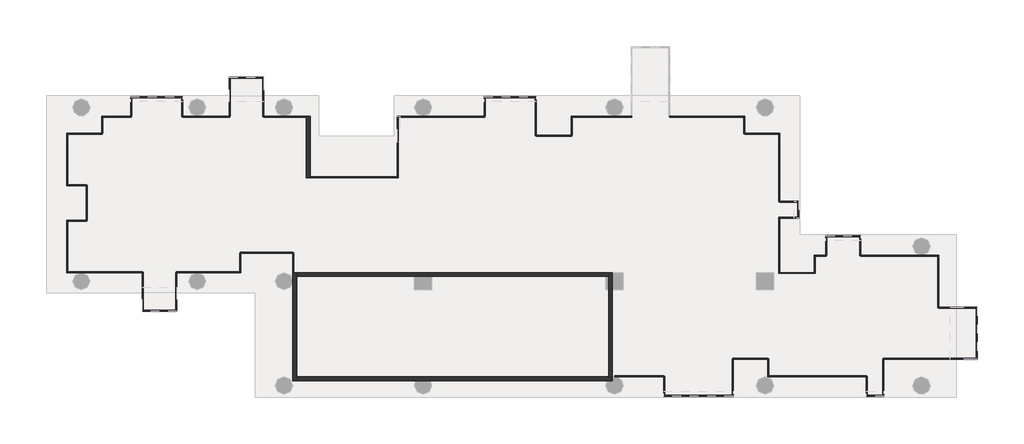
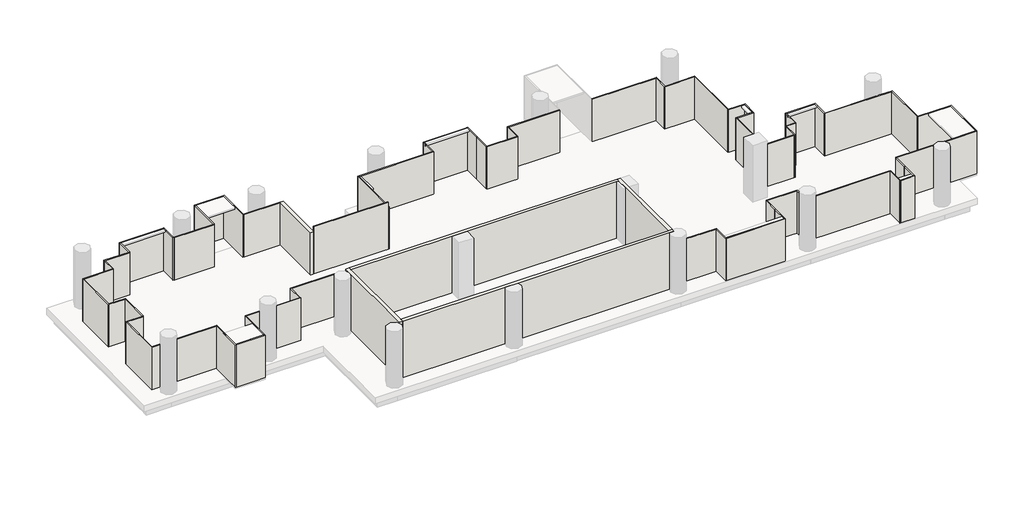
# One storey, part 1 of 2: 71 walls.
"""IFC4 building model written with IfcOpenShell, lengths in millimetres."""

from ifc_helpers import new_model, si_unit, frame, origin, place, context, project, spatial, polyline, outline, extrude, faceted_brep, element, save

model = new_model("IFC4")

# Units and contexts
model_context = context("Model", 3, world=origin())
ifc_project = project(units=[si_unit("LENGTHUNIT", "METRE", prefix="MILLI")], contexts=[model_context])

# Site, building, storey
site = spatial("IfcSite", under=ifc_project)
building = spatial("IfcBuilding", under=site)
storey = spatial("IfcBuildingStorey", under=building, Name="TW-L 13", Elevation=45999.9999686)

# Walls
placement = place(None, origin())
element("IfcWall", 1, ObjectType="AJN-ARC-CONCRETE WALL-20cm", at=placement, inside=storey, context=model_context, shape_type="Brep", body=[
    faceted_brep([(113050.0, 30750.0, 49599.9999686), (113050.0, 30750.0, 45999.9999686), (113050.0, 25150.0, 45999.9999686), (113050.0, 25150.0, 49599.9999686), (113250.0, 30750.0, 45999.9999686), (113250.0, 30750.0, 49599.9999686), (113250.0, 30550.0, 49599.9999686), (113250.0, 25350.0, 49599.9999686), (113250.0, 25150.0, 49599.9999686), (113250.0, 25150.0, 45999.9999686), (113250.0, 25350.0, 45999.9999686), (113250.0, 30550.0, 45999.9999686), (113097.1743518, 30750.0, 45999.9999686)], [[[0, 1, 2, 3]], [[4, 5, 6, 7, 8, 9, 10, 11]], [[2, 1, 12, 4, 11, 10, 9]], [[0, 3, 8, 7, 6, 5]], [[3, 2, 9, 8]], [[0, 5, 4, 12, 1]]]),
])
element("IfcWall", 2, ObjectType="AJN-ARC-CONCRETE WALL-20cm", at=placement, inside=storey, context=model_context, shape_type="Brep", body=[
    faceted_brep([(113250.0, 25150.0, 45999.9999686), (119425.8342613, 25150.0, 45999.9999686), (120174.1657387, 25150.0, 45999.9999686), (129325.8342613, 25150.0, 45999.9999686), (129600.0, 25150.0, 45999.9999686), (129600.0, 25150.0, 49599.9999686), (129325.8342613, 25150.0, 49599.9999686), (120174.1657387, 25150.0, 49599.9999686), (119425.8342613, 25150.0, 49599.9999686), (113250.0, 25150.0, 49599.9999686), (113250.0, 25350.0, 45999.9999686), (113250.0, 25350.0, 49599.9999686), (129400.0, 25350.0, 49599.9999686), (129600.0, 25350.0, 49599.9999686), (129600.0, 25350.0, 45999.9999686), (129400.0, 25350.0, 45999.9999686), (129600.0, 25338.7482194, 45999.9999686), (129600.0, 25338.7482194, 49599.9999686)], [[[0, 1, 2, 3, 4, 5, 6, 7, 8, 9]], [[10, 11, 12, 13, 14, 15]], [[4, 3, 2, 1, 0, 10, 15, 14, 16]], [[9, 8, 7, 6, 5, 17, 13, 12, 11]], [[5, 4, 16, 14, 13, 17]], [[0, 9, 11, 10]]]),
])
element("IfcWall", 3, ObjectType="AJN-ARC-CONCRETE WALL-20cm", at=placement, inside=storey, context=model_context, shape_type="Brep", body=[
    faceted_brep([(129600.0, 25350.0, 45999.9999686), (129600.0, 29850.0, 45999.9999686), (129600.0, 30750.0, 45999.9999686), (129600.0, 30750.0, 49599.9999686), (129600.0, 29850.0, 49599.9999686), (129600.0, 25350.0, 49599.9999686), (129400.0, 25350.0, 45999.9999686), (129400.0, 25350.0, 49599.9999686), (129400.0, 29850.0, 49599.9999686), (129400.0, 30550.0, 49599.9999686), (129400.0, 30750.0, 49599.9999686), (129400.0, 30750.0, 45999.9999686), (129400.0, 30550.0, 45999.9999686), (129400.0, 29850.0, 45999.9999686)], [[[0, 1, 2, 3, 4, 5]], [[6, 7, 8, 9, 10, 11, 12, 13]], [[2, 1, 0, 6, 13, 12, 11]], [[5, 4, 3, 10, 9, 8, 7]], [[3, 2, 11, 10]], [[0, 5, 7, 6]]]),
])
element("IfcWall", 4, ObjectType="AJN-ARC-CONCRETE WALL-20cm", at=placement, inside=storey, context=model_context, shape_type="Brep", body=[
    faceted_brep([(129400.0, 30750.0, 45999.9999686), (113250.0, 30750.0, 45999.9999686), (113250.0, 30750.0, 49599.9999686), (129400.0, 30750.0, 49599.9999686), (129400.0, 30550.0, 45999.9999686), (129400.0, 30550.0, 49599.9999686), (129250.0, 30550.0, 49599.9999686), (120250.0, 30550.0, 49599.9999686), (119350.0, 30550.0, 49599.9999686), (113250.0, 30550.0, 49599.9999686), (113250.0, 30550.0, 45999.9999686), (119350.0, 30550.0, 45999.9999686), (120250.0, 30550.0, 45999.9999686), (129250.0, 30550.0, 45999.9999686)], [[[0, 1, 2, 3]], [[4, 5, 6, 7, 8, 9, 10, 11, 12, 13]], [[1, 0, 4, 13, 12, 11, 10]], [[3, 2, 9, 8, 7, 6, 5]], [[0, 3, 5, 4]], [[1, 10, 9, 2]]]),
])
element("IfcWall", 5, ObjectType="AJN-ARC-CONCRETE WALL-20cm", at=placement, inside=storey, context=model_context, shape_type="Brep", body=[
    faceted_brep([(113950.0, 35650.0, 45999.9999686), (113950.0, 38850.001152, 45999.9999686), (113950.0, 38850.001152, 48699.9999686), (113950.0, 35650.0, 48699.9999686), (113750.0, 35650.0, 45999.9999686), (113750.0, 35650.0, 48699.9999686), (113750.0, 38800.001056, 48699.9999686), (113750.0, 38850.001056, 48699.9999686), (113750.0, 38850.001056, 45999.9999686), (113750.0, 38800.001056, 45999.9999686)], [[[0, 1, 2, 3]], [[4, 5, 6, 7, 8, 9]], [[1, 0, 4, 9, 8]], [[3, 2, 7, 6, 5]], [[0, 3, 5, 4]], [[2, 1, 8, 7]]]),
])
element("IfcWall", 6, ObjectType="AJN-ARC-GLASS-50mm", at=placement, inside=storey, context=model_context, shape_type="SweptSolid", body=[
    extrude(outline(polyline([(111550.0, 38850.0), (113750.0, 38850.001056), (113750.0, 38800.001056), (111550.000024, 38800.0), (111550.0, 38850.0)])), frame((0.0, 0.0, 45999.9999686), z_axis=(0.0, 0.0, 1.0), x_axis=(1.0, 0.0, 0.0)), (0.0, 0.0, 1.0), 2700.0),
])
element("IfcWall", 7, ObjectType="AJN-ARC-GLASS-50mm", at=placement, inside=storey, context=model_context, shape_type="Brep", body=[
    faceted_brep([(111550.0, 38824.999988, 45999.9999686), (111550.0, 40850.0, 45999.9999686), (111550.0, 40850.0, 48699.9999686), (111550.0, 38824.999988, 48699.9999686), (111500.0, 38824.999988, 45999.9999686), (111500.0, 38824.999988, 48699.9999686), (111500.0, 40800.0, 48699.9999686), (111500.0, 40850.0, 48699.9999686), (111500.0, 40850.0, 45999.9999686), (111500.0, 40800.0, 45999.9999686)], [[[0, 1, 2, 3]], [[4, 5, 6, 7, 8, 9]], [[1, 0, 4, 9, 8]], [[3, 2, 7, 6, 5]], [[0, 3, 5, 4]], [[2, 1, 8, 7]]]),
])
element("IfcWall", 8, ObjectType="AJN-ARC-GLASS-50mm", at=placement, inside=storey, context=model_context, shape_type="Brep", body=[
    faceted_brep([(111500.0, 40850.0, 45999.9999686), (109750.0, 40850.0, 45999.9999686), (109750.0, 40850.0, 48699.9999686), (111500.0, 40850.0, 48699.9999686), (111500.0, 40800.0, 45999.9999686), (111500.0, 40800.0, 48699.9999686), (109800.0, 40800.0, 48699.9999686), (109750.0, 40800.0, 48699.9999686), (109750.0, 40800.0, 45999.9999686), (109800.0, 40800.0, 45999.9999686)], [[[0, 1, 2, 3]], [[4, 5, 6, 7, 8, 9]], [[1, 0, 4, 9, 8]], [[3, 2, 7, 6, 5]], [[2, 1, 8, 7]], [[0, 3, 5, 4]]]),
])
element("IfcWall", 9, ObjectType="AJN-ARC-GLASS-50mm", at=placement, inside=storey, context=model_context, shape_type="SweptSolid", body=[
    extrude(outline(polyline([(109750.0, 38850.0), (109750.0, 40800.0), (109800.0, 40800.0), (109800.0, 38850.0), (109750.0, 38850.0)])), frame((0.0, 0.0, 45999.9999686), z_axis=(0.0, 0.0, 1.0), x_axis=(1.0, 0.0, 0.0)), (0.0, 0.0, 1.0), 2700.0),
])
element("IfcWall", 10, ObjectType="AJN-ARC-GLASS-50mm", at=placement, inside=storey, context=model_context, shape_type="SweptSolid", body=[
    extrude(outline(polyline([(107350.0, 38850.0), (109775.0, 38850.0), (109775.0, 38800.0), (107350.0, 38800.0), (107350.0, 38850.0)])), frame((0.0, 0.0, 45999.9999686), z_axis=(0.0, 0.0, 1.0), x_axis=(1.0, 0.0, 0.0)), (0.0, 0.0, 1.0), 2700.0),
])
element("IfcWall", 11, ObjectType="AJN-ARC-GLASS-50mm", at=placement, inside=storey, context=model_context, shape_type="Brep", body=[
    faceted_brep([(107350.0, 38825.0, 45999.9999686), (107350.0, 39850.0, 45999.9999686), (107350.0, 39850.0, 48699.9999686), (107350.0, 38825.0, 48699.9999686), (107300.0, 38825.0, 45999.9999686), (107300.0, 38825.0, 48699.9999686), (107300.0, 39800.0, 48699.9999686), (107300.0, 39850.0, 48699.9999686), (107300.0, 39850.0, 45999.9999686), (107300.0, 39800.0, 45999.9999686)], [[[0, 1, 2, 3]], [[4, 5, 6, 7, 8, 9]], [[1, 0, 4, 9, 8]], [[3, 2, 7, 6, 5]], [[0, 3, 5, 4]], [[2, 1, 8, 7]]]),
])
element("IfcWall", 12, ObjectType="AJN-ARC-GLASS-50mm", at=placement, inside=storey, context=model_context, shape_type="Brep", body=[
    faceted_brep([(107300.0, 39850.0, 45999.9999686), (104650.0, 39850.0, 45999.9999686), (104650.0, 39850.0, 48699.9999686), (107300.0, 39850.0, 48699.9999686), (107300.0, 39800.0, 45999.9999686), (107300.0, 39800.0, 48699.9999686), (104700.0, 39800.0, 48699.9999686), (104650.0, 39800.0, 48699.9999686), (104650.0, 39800.0, 45999.9999686), (104700.0, 39800.0, 45999.9999686)], [[[0, 1, 2, 3]], [[4, 5, 6, 7, 8, 9]], [[1, 0, 4, 9, 8]], [[3, 2, 7, 6, 5]], [[2, 1, 8, 7]], [[0, 3, 5, 4]]]),
])
element("IfcWall", 13, ObjectType="AJN-ARC-GLASS-50mm", at=placement, inside=storey, context=model_context, shape_type="SweptSolid", body=[
    extrude(outline(polyline([(104650.0, 38850.0), (104650.0, 39800.0), (104700.0, 39800.0), (104700.0, 38850.0), (104650.0, 38850.0)])), frame((0.0, 0.0, 45999.9999686), z_axis=(0.0, 0.0, 1.0), x_axis=(1.0, 0.0, 0.0)), (0.0, 0.0, 1.0), 2700.0),
])
element("IfcWall", 14, ObjectType="AJN-ARC-GLASS-50mm", at=placement, inside=storey, context=model_context, shape_type="Brep", body=[
    faceted_brep([(104675.0000087, 38849.9999913, 45999.9999686), (103152.4399309, 38850.0005223, 45999.9999686), (103152.4399309, 38850.0005223, 48699.9999686), (104675.0000087, 38849.9999913, 48699.9999686), (104674.9999913, 38799.9999913, 45999.9999686), (104674.9999913, 38799.9999913, 48699.9999686), (103202.4399309, 38800.0005049, 48699.9999686), (103152.4399309, 38800.0005223, 48699.9999686), (103152.4399309, 38800.0005223, 45999.9999686), (103202.4399309, 38800.0005049, 45999.9999686)], [[[0, 1, 2, 3]], [[4, 5, 6, 7, 8, 9]], [[1, 0, 4, 9, 8]], [[3, 2, 7, 6, 5]], [[0, 3, 5, 4]], [[2, 1, 8, 7]]]),
])
element("IfcWall", 15, ObjectType="AJN-ARC-GLASS-50mm", at=placement, inside=storey, context=model_context, shape_type="SweptSolid", body=[
    extrude(outline(polyline([(103152.4399309, 37950.0050982), (103152.4399309, 38800.0005223), (103202.4399309, 38800.0005049), (103202.4399309, 37950.0050982), (103152.4399309, 37950.0050982)])), frame((0.0, 0.0, 45999.9999686), z_axis=(0.0, 0.0, 1.0), x_axis=(1.0, 0.0, 0.0)), (0.0, 0.0, 1.0), 2700.0),
])
element("IfcWall", 16, ObjectType="AJN-ARC-GLASS-50mm", at=placement, inside=storey, context=model_context, shape_type="Brep", body=[
    faceted_brep([(103177.4399309, 37950.0050982, 45999.9999686), (101347.1743518, 37950.0050982, 45999.9999686), (101347.1743518, 37950.0050982, 48699.9999686), (103177.4399309, 37950.0050982, 48699.9999686), (103177.4399309, 37900.0050982, 45999.9999686), (103177.4399309, 37900.0050982, 48699.9999686), (101397.1743518, 37900.0050982, 48699.9999686), (101347.1743518, 37900.0050982, 48699.9999686), (101347.1743518, 37900.0050982, 45999.9999686), (101397.1743518, 37900.0050982, 45999.9999686)], [[[0, 1, 2, 3]], [[4, 5, 6, 7, 8, 9]], [[1, 0, 4, 9, 8]], [[3, 2, 7, 6, 5]], [[0, 3, 5, 4]], [[2, 1, 8, 7]]]),
])
element("IfcWall", 17, ObjectType="AJN-ARC-GLASS-50mm", at=placement, inside=storey, context=model_context, shape_type="Brep", body=[
    faceted_brep([(101347.1743518, 37900.0050982, 45999.9999686), (101347.1743518, 35250.0, 45999.9999686), (101347.1743518, 35250.0, 48699.9999686), (101347.1743518, 37900.0050982, 48699.9999686), (101397.1743518, 37900.0050982, 45999.9999686), (101397.1743518, 37900.0050982, 48699.9999686), (101397.1743518, 35300.0, 48699.9999686), (101397.1743518, 35250.0, 48699.9999686), (101397.1743518, 35250.0, 45999.9999686), (101397.1743518, 35300.0, 45999.9999686)], [[[0, 1, 2, 3]], [[4, 5, 6, 7, 8, 9]], [[1, 0, 4, 9, 8]], [[3, 2, 7, 6, 5]], [[2, 1, 8, 7]], [[0, 3, 5, 4]]]),
])
element("IfcWall", 18, ObjectType="AJN-ARC-GLASS-50mm", at=placement, inside=storey, context=model_context, shape_type="SweptSolid", body=[
    extrude(outline(polyline([(102347.1743518, 35250.0), (101397.1743518, 35250.0), (101397.1743518, 35300.0), (102347.1743518, 35300.0), (102347.1743518, 35250.0)])), frame((0.0, 0.0, 45999.9999686), z_axis=(0.0, 0.0, 1.0), x_axis=(1.0, 0.0, 0.0)), (0.0, 0.0, 1.0), 2700.0),
])
element("IfcWall", 19, ObjectType="AJN-ARC-GLASS-50mm", at=placement, inside=storey, context=model_context, shape_type="SweptSolid", body=[
    extrude(outline(polyline([(102347.1743518, 33450.0), (102347.1743518, 35275.0), (102397.1743518, 35275.0), (102397.1743518, 33450.0), (102347.1743518, 33450.0)])), frame((0.0, 0.0, 45999.9999686), z_axis=(0.0, 0.0, 1.0), x_axis=(1.0, 0.0, 0.0)), (0.0, 0.0, 1.0), 2700.0),
])
element("IfcWall", 20, ObjectType="AJN-ARC-GLASS-50mm", at=placement, inside=storey, context=model_context, shape_type="Brep", body=[
    faceted_brep([(102372.1743518, 33450.0, 45999.9999686), (101347.1743518, 33450.0, 45999.9999686), (101347.1743518, 33450.0, 48699.9999686), (102372.1743518, 33450.0, 48699.9999686), (102372.1743518, 33400.0, 45999.9999686), (102372.1743518, 33400.0, 48699.9999686), (101397.1743518, 33400.0, 48699.9999686), (101347.1743518, 33400.0, 48699.9999686), (101347.1743518, 33400.0, 45999.9999686), (101397.1743518, 33400.0, 45999.9999686)], [[[0, 1, 2, 3]], [[4, 5, 6, 7, 8, 9]], [[1, 0, 4, 9, 8]], [[3, 2, 7, 6, 5]], [[0, 3, 5, 4]], [[2, 1, 8, 7]]]),
])
element("IfcWall", 21, ObjectType="AJN-ARC-GLASS-50mm", at=placement, inside=storey, context=model_context, shape_type="Brep", body=[
    faceted_brep([(101347.1743518, 33400.0, 45999.9999686), (101347.1743518, 30750.0, 45999.9999686), (101347.1743518, 30750.0, 48699.9999686), (101347.1743518, 33400.0, 48699.9999686), (101397.1743518, 33400.0, 45999.9999686), (101397.1743518, 33400.0, 48699.9999686), (101397.1743518, 30800.0, 48699.9999686), (101397.1743518, 30750.0, 48699.9999686), (101397.1743518, 30750.0, 45999.9999686), (101397.1743518, 30800.0, 45999.9999686)], [[[0, 1, 2, 3]], [[4, 5, 6, 7, 8, 9]], [[1, 0, 4, 9, 8]], [[3, 2, 7, 6, 5]], [[2, 1, 8, 7]], [[0, 3, 5, 4]]]),
])
element("IfcWall", 22, ObjectType="AJN-ARC-GLASS-50mm", at=placement, inside=storey, context=model_context, shape_type="SweptSolid", body=[
    extrude(outline(polyline([(105247.1743518, 30750.0), (101397.1743518, 30750.0), (101397.1743518, 30800.0), (105247.1743518, 30800.0), (105247.1743518, 30750.0)])), frame((0.0, 0.0, 45999.9999686), z_axis=(0.0, 0.0, 1.0), x_axis=(1.0, 0.0, 0.0)), (0.0, 0.0, 1.0), 2700.0),
])
element("IfcWall", 23, ObjectType="AJN-ARC-GLASS-50mm", at=placement, inside=storey, context=model_context, shape_type="Brep", body=[
    faceted_brep([(105247.1743518, 30775.0, 45999.9999686), (105247.1743518, 28750.0, 45999.9999686), (105247.1743518, 28750.0, 48699.9999686), (105247.1743518, 30775.0, 48699.9999686), (105297.1743518, 30775.0, 45999.9999686), (105297.1743518, 30775.0, 48699.9999686), (105297.1743518, 28800.0, 48699.9999686), (105297.1743518, 28750.0, 48699.9999686), (105297.1743518, 28750.0, 45999.9999686), (105297.1743518, 28800.0, 45999.9999686)], [[[0, 1, 2, 3]], [[4, 5, 6, 7, 8, 9]], [[1, 0, 4, 9, 8]], [[3, 2, 7, 6, 5]], [[0, 3, 5, 4]], [[2, 1, 8, 7]]]),
])
element("IfcWall", 24, ObjectType="AJN-ARC-GLASS-50mm", at=placement, inside=storey, context=model_context, shape_type="Brep", body=[
    faceted_brep([(105297.1743518, 28750.0, 45999.9999686), (107047.1743518, 28750.0, 45999.9999686), (107047.1743518, 28750.0, 48699.9999686), (105297.1743518, 28750.0, 48699.9999686), (105297.1743518, 28800.0, 45999.9999686), (105297.1743518, 28800.0, 48699.9999686), (106997.1743518, 28800.0, 48699.9999686), (107047.1743518, 28800.0, 48699.9999686), (107047.1743518, 28800.0, 45999.9999686), (106997.1743518, 28800.0, 45999.9999686)], [[[0, 1, 2, 3]], [[4, 5, 6, 7, 8, 9]], [[1, 0, 4, 9, 8]], [[3, 2, 7, 6, 5]], [[2, 1, 8, 7]], [[0, 3, 5, 4]]]),
])
element("IfcWall", 25, ObjectType="AJN-ARC-GLASS-50mm", at=placement, inside=storey, context=model_context, shape_type="SweptSolid", body=[
    extrude(outline(polyline([(107047.1743518, 30750.0), (107047.1743518, 28800.0), (106997.1743518, 28800.0), (106997.1743518, 30750.0), (107047.1743518, 30750.0)])), frame((0.0, 0.0, 45999.9999686), z_axis=(0.0, 0.0, 1.0), x_axis=(1.0, 0.0, 0.0)), (0.0, 0.0, 1.0), 2700.0),
])
element("IfcWall", 26, ObjectType="AJN-ARC-GLASS-50mm", at=placement, inside=storey, context=model_context, shape_type="Brep", body=[
    faceted_brep([(107022.1743518, 30750.0, 45999.9999686), (110347.1743518, 30750.0, 45999.9999686), (110347.1743518, 30750.0, 48699.9999686), (107022.1743518, 30750.0, 48699.9999686), (107022.1743518, 30800.0, 45999.9999686), (107022.1743518, 30800.0, 48699.9999686), (110297.1743518, 30800.0, 48699.9999686), (110347.1743518, 30800.0, 48699.9999686), (110347.1743518, 30800.0, 45999.9999686), (110297.1743518, 30800.0, 45999.9999686)], [[[0, 1, 2, 3]], [[4, 5, 6, 7, 8, 9]], [[1, 0, 4, 9, 8]], [[3, 2, 7, 6, 5]], [[0, 3, 5, 4]], [[2, 1, 8, 7]]]),
])
element("IfcWall", 27, ObjectType="AJN-ARC-GLASS-50mm", at=placement, inside=storey, context=model_context, shape_type="SweptSolid", body=[
    extrude(outline(polyline([(110347.1743518, 31750.0), (110347.1743518, 30800.0), (110297.1743518, 30800.0), (110297.1743518, 31750.0), (110347.1743518, 31750.0)])), frame((0.0, 0.0, 45999.9999686), z_axis=(0.0, 0.0, 1.0), x_axis=(1.0, 0.0, 0.0)), (0.0, 0.0, 1.0), 2700.0),
])
element("IfcWall", 28, ObjectType="AJN-ARC-GLASS-50mm", at=placement, inside=storey, context=model_context, shape_type="SweptSolid", body=[
    extrude(outline(polyline([(113047.1743518, 31750.0), (110322.1743518, 31750.0), (110322.1743518, 31800.0), (113047.1743518, 31800.0), (113047.1743518, 31750.0)])), frame((0.0, 0.0, 45999.9999686), z_axis=(0.0, 0.0, 1.0), x_axis=(1.0, 0.0, 0.0)), (0.0, 0.0, 1.0), 2700.0),
])
element("IfcWall", 29, ObjectType="AJN-ARC-GLASS-50mm", at=placement, inside=storey, context=model_context, shape_type="Brep", body=[
    faceted_brep([(113047.1743518, 31775.0, 45999.9999686), (113047.1743518, 30750.0, 45999.9999686), (113047.1743518, 30750.0, 48699.9999686), (113047.1743518, 31775.0, 48699.9999686), (113097.1743518, 31775.0, 45999.9999686), (113097.1743518, 31775.0, 48699.9999686), (113097.1743518, 30750.0, 48699.9999686), (113097.1743518, 30750.0, 45999.9999686), (113050.0, 30750.0, 45999.9999686)], [[[0, 1, 2, 3]], [[4, 5, 6, 7]], [[1, 0, 4, 7, 8]], [[3, 2, 6, 5]], [[0, 3, 5, 4]], [[2, 1, 8, 7, 6]]]),
])
element("IfcWall", 30, ObjectType="AJN-ARC-GLASS-50mm", at=placement, inside=storey, context=model_context, shape_type="Brep", body=[
    faceted_brep([(138250.0, 30700.0, 45999.9999686), (138250.0, 30750.0, 45999.9999686), (138250.0, 33550.0, 45999.9999686), (138250.0, 33550.0, 48699.9999686), (138250.0, 30750.0, 48699.9999686), (138250.0, 30700.0, 48699.9999686), (138200.0, 30700.0, 45999.9999686), (138200.0, 30700.0, 48699.9999686), (138200.0, 33550.0, 48699.9999686), (138200.0, 33550.0, 45999.9999686)], [[[0, 1, 2, 3, 4, 5]], [[6, 7, 8, 9]], [[2, 1, 0, 6, 9]], [[5, 4, 3, 8, 7]], [[0, 5, 7, 6]], [[3, 2, 9, 8]]]),
])
element("IfcWall", 31, ObjectType="AJN-ARC-GLASS-50mm", at=placement, inside=storey, context=model_context, shape_type="Brep", body=[
    faceted_brep([(138200.0, 33550.0, 45999.9999686), (138250.0, 33550.0, 45999.9999686), (139250.0, 33550.0, 45999.9999686), (139250.0, 33550.0, 48699.9999686), (138250.0, 33550.0, 48699.9999686), (138200.0, 33550.0, 48699.9999686), (138200.0, 33600.0, 45999.9999686), (138200.0, 33600.0, 48699.9999686), (139200.0, 33600.0, 48699.9999686), (139250.0, 33600.0, 48699.9999686), (139250.0, 33600.0, 45999.9999686), (139200.0, 33600.0, 45999.9999686)], [[[0, 1, 2, 3, 4, 5]], [[6, 7, 8, 9, 10, 11]], [[2, 1, 0, 6, 11, 10]], [[5, 4, 3, 9, 8, 7]], [[3, 2, 10, 9]], [[0, 5, 7, 6]]]),
])
element("IfcWall", 32, ObjectType="AJN-ARC-GLASS-50mm", at=placement, inside=storey, context=model_context, shape_type="Brep", body=[
    faceted_brep([(139250.0, 33600.0, 45999.9999686), (139250.0, 34450.0, 45999.9999686), (139250.0, 34450.0, 48699.9999686), (139250.0, 33600.0, 48699.9999686), (139200.0, 33600.0, 45999.9999686), (139200.0, 33600.0, 48699.9999686), (139200.0, 34400.0, 48699.9999686), (139200.0, 34450.0, 48699.9999686), (139200.0, 34450.0, 45999.9999686), (139200.0, 34400.0, 45999.9999686)], [[[0, 1, 2, 3]], [[4, 5, 6, 7, 8, 9]], [[1, 0, 4, 9, 8]], [[3, 2, 7, 6, 5]], [[2, 1, 8, 7]], [[0, 3, 5, 4]]]),
])
element("IfcWall", 33, ObjectType="AJN-ARC-GLASS-50mm", at=placement, inside=storey, context=model_context, shape_type="SweptSolid", body=[
    extrude(outline(polyline([(138250.0, 34450.0), (139200.0, 34450.0), (139200.0, 34400.0), (138250.0, 34400.0), (138250.0, 34450.0)])), frame((0.0, 0.0, 45999.9999686), z_axis=(0.0, 0.0, 1.0), x_axis=(1.0, 0.0, 0.0)), (0.0, 0.0, 1.0), 2700.0),
])
element("IfcWall", 34, ObjectType="AJN-ARC-GLASS-50mm", at=placement, inside=storey, context=model_context, shape_type="Brep", body=[
    faceted_brep([(138250.0, 34425.0, 45999.9999686), (138250.0, 37950.0, 45999.9999686), (138250.0, 37950.0, 48699.9999686), (138250.0, 34425.0, 48699.9999686), (138200.0, 34425.0, 45999.9999686), (138200.0, 34425.0, 48699.9999686), (138200.0, 37900.0, 48699.9999686), (138200.0, 37950.0, 48699.9999686), (138200.0, 37950.0, 45999.9999686), (138200.0, 37900.0, 45999.9999686)], [[[0, 1, 2, 3]], [[4, 5, 6, 7, 8, 9]], [[1, 0, 4, 9, 8]], [[3, 2, 7, 6, 5]], [[0, 3, 5, 4]], [[2, 1, 8, 7]]]),
])
element("IfcWall", 35, ObjectType="AJN-ARC-GLASS-50mm", at=placement, inside=storey, context=model_context, shape_type="SweptSolid", body=[
    extrude(outline(polyline([(136450.0, 37950.0), (138200.0, 37950.0), (138200.0, 37900.0), (136450.0, 37900.0), (136450.0, 37950.0)])), frame((0.0, 0.0, 45999.9999686), z_axis=(0.0, 0.0, 1.0), x_axis=(1.0, 0.0, 0.0)), (0.0, 0.0, 1.0), 2700.0),
])
element("IfcWall", 36, ObjectType="AJN-ARC-GLASS-50mm", at=placement, inside=storey, context=model_context, shape_type="Brep", body=[
    faceted_brep([(136450.0, 37925.0, 45999.9999686), (136450.0, 38850.0, 45999.9999686), (136450.0, 38850.0, 48699.9999686), (136450.0, 37925.0, 48699.9999686), (136400.0, 37925.0, 45999.9999686), (136400.0, 37925.0, 48699.9999686), (136400.0, 38800.0, 48699.9999686), (136400.0, 38850.0, 48699.9999686), (136400.0, 38850.0, 45999.9999686), (136400.0, 38800.0, 45999.9999686)], [[[0, 1, 2, 3]], [[4, 5, 6, 7, 8, 9]], [[1, 0, 4, 9, 8]], [[3, 2, 7, 6, 5]], [[0, 3, 5, 4]], [[2, 1, 8, 7]]]),
])
element("IfcWall", 37, ObjectType="AJN-ARC-GLASS-50mm", at=placement, inside=storey, context=model_context, shape_type="SweptSolid", body=[
    extrude(outline(polyline([(132561.0540705, 38850.0), (136400.0, 38850.0), (136400.0, 38800.0), (132561.0540705, 38800.0), (132561.0540705, 38850.0)])), frame((0.0, 0.0, 45999.9999686), z_axis=(0.0, 0.0, 1.0), x_axis=(1.0, 0.0, 0.0)), (0.0, 0.0, 1.0), 2700.0),
])
element("IfcWall", 38, ObjectType="AJN-ARC-GLASS-50mm", at=placement, inside=storey, context=model_context, shape_type="Brep", body=[
    faceted_brep([(130586.0540705, 38850.0, 45999.9999686), (127460.049155, 38850.0, 45999.9999686), (127460.049155, 38850.0, 48699.9999686), (130586.0540705, 38850.0, 48699.9999686), (130586.0540705, 38800.0, 45999.9999686), (130586.0540705, 38800.0, 48699.9999686), (127510.049155, 38800.0, 48699.9999686), (127460.049155, 38800.0, 48699.9999686), (127460.049155, 38800.0, 45999.9999686), (127510.049155, 38800.0, 45999.9999686)], [[[0, 1, 2, 3]], [[4, 5, 6, 7, 8, 9]], [[1, 0, 4, 9, 8]], [[3, 2, 7, 6, 5]], [[0, 3, 5, 4]], [[2, 1, 8, 7]]]),
])
element("IfcWall", 39, ObjectType="AJN-ARC-GLASS-50mm", at=placement, inside=storey, context=model_context, shape_type="SweptSolid", body=[
    extrude(outline(polyline([(127460.049155, 37850.0), (127460.049155, 38800.0), (127510.049155, 38800.0), (127510.049155, 37850.0), (127460.049155, 37850.0)])), frame((0.0, 0.0, 45999.9999686), z_axis=(0.0, 0.0, 1.0), x_axis=(1.0, 0.0, 0.0)), (0.0, 0.0, 1.0), 2700.0),
])
element("IfcWall", 40, ObjectType="AJN-ARC-GLASS-50mm", at=placement, inside=storey, context=model_context, shape_type="SweptSolid", body=[
    extrude(outline(polyline([(125660.049155, 37850.0), (127485.049155, 37850.0), (127485.049155, 37800.0), (125660.049155, 37800.0), (125660.049155, 37850.0)])), frame((0.0, 0.0, 45999.9999686), z_axis=(0.0, 0.0, 1.0), x_axis=(1.0, 0.0, 0.0)), (0.0, 0.0, 1.0), 2700.0),
])
element("IfcWall", 41, ObjectType="AJN-ARC-GLASS-50mm", at=placement, inside=storey, context=model_context, shape_type="SweptSolid", body=[
    extrude(outline(polyline([(125660.049155, 38850.0), (125660.049155, 37825.0), (125610.049155, 37825.0), (125610.049155, 38850.0), (125660.049155, 38850.0)])), frame((0.0, 0.0, 45999.9999686), z_axis=(0.0, 0.0, 1.0), x_axis=(1.0, 0.0, 0.0)), (0.0, 0.0, 1.0), 2700.0),
])
element("IfcWall", 42, ObjectType="AJN-ARC-GLASS-50mm", at=placement, inside=storey, context=model_context, shape_type="Brep", body=[
    faceted_brep([(125663.0639015, 38850.0, 45999.9999686), (125663.0639015, 39850.0, 45999.9999686), (125663.0639015, 39850.0, 48699.9999686), (125663.0639015, 38850.0, 48699.9999686), (125613.0639015, 38850.0, 45999.9999686), (125613.0639015, 38850.0, 48699.9999686), (125613.0639015, 39800.0, 48699.9999686), (125613.0639015, 39850.0, 48699.9999686), (125613.0639015, 39850.0, 45999.9999686), (125613.0639015, 39800.0, 45999.9999686)], [[[0, 1, 2, 3]], [[4, 5, 6, 7, 8, 9]], [[1, 0, 4, 9, 8]], [[3, 2, 7, 6, 5]], [[0, 3, 5, 4]], [[2, 1, 8, 7]]]),
])
element("IfcWall", 43, ObjectType="AJN-ARC-GLASS-50mm", at=placement, inside=storey, context=model_context, shape_type="Brep", body=[
    faceted_brep([(125613.0639015, 39850.0, 45999.9999686), (122963.0639015, 39850.0, 45999.9999686), (122963.0639015, 39850.0, 48699.9999686), (125613.0639015, 39850.0, 48699.9999686), (125613.0639015, 39800.0, 45999.9999686), (125613.0639015, 39800.0, 48699.9999686), (123013.0639015, 39800.0, 48699.9999686), (122963.0639015, 39800.0, 48699.9999686), (122963.0639015, 39800.0, 45999.9999686), (123013.0639015, 39800.0, 45999.9999686)], [[[0, 1, 2, 3]], [[4, 5, 6, 7, 8, 9]], [[1, 0, 4, 9, 8]], [[3, 2, 7, 6, 5]], [[2, 1, 8, 7]], [[0, 3, 5, 4]]]),
])
element("IfcWall", 44, ObjectType="AJN-ARC-GLASS-50mm", at=placement, inside=storey, context=model_context, shape_type="SweptSolid", body=[
    extrude(outline(polyline([(122963.0639015, 38850.0), (122963.0639015, 39800.0), (123013.0639015, 39800.0), (123013.0639015, 38850.0), (122963.0639015, 38850.0)])), frame((0.0, 0.0, 45999.9999686), z_axis=(0.0, 0.0, 1.0), x_axis=(1.0, 0.0, 0.0)), (0.0, 0.0, 1.0), 2700.0),
])
element("IfcWall", 45, ObjectType="AJN-ARC-GLASS-50mm", at=placement, inside=storey, context=model_context, shape_type="Brep", body=[
    faceted_brep([(122988.0639015, 38850.0, 45999.9999686), (118450.0, 38850.0, 45999.9999686), (118450.0, 38850.0, 48699.9999686), (122988.0639015, 38850.0, 48699.9999686), (122988.0639015, 38800.0, 45999.9999686), (122988.0639015, 38800.0, 48699.9999686), (118500.0, 38800.0, 48699.9999686), (118450.0, 38800.0, 48699.9999686), (118450.0, 38800.0, 45999.9999686), (118500.0, 38800.0, 45999.9999686)], [[[0, 1, 2, 3]], [[4, 5, 6, 7, 8, 9]], [[1, 0, 4, 9, 8]], [[3, 2, 7, 6, 5]], [[0, 3, 5, 4]], [[2, 1, 8, 7]]]),
])
element("IfcWall", 46, ObjectType="AJN-ARC-GLASS-50mm", at=placement, inside=storey, context=model_context, shape_type="SweptSolid", body=[
    extrude(outline(polyline([(132250.2843667, 25350.0), (129714.068817, 25350.0), (129714.068817, 25400.0), (132250.2843667, 25400.0), (132250.2843667, 25350.0)])), frame((0.0, 0.0, 45999.9999686), z_axis=(0.0, 0.0, 1.0), x_axis=(1.0, 0.0, 0.0)), (0.0, 0.0, 1.0), 2700.0),
])
element("IfcWall", 47, ObjectType="AJN-ARC-GLASS-50mm", at=placement, inside=storey, context=model_context, shape_type="Brep", body=[
    faceted_brep([(132250.2843667, 25375.0, 45999.9999686), (132250.2843667, 24350.0, 45999.9999686), (132250.2843667, 24350.0, 48699.9999686), (132250.2843667, 25375.0, 48699.9999686), (132300.2843667, 25375.0, 45999.9999686), (132300.2843667, 25375.0, 48699.9999686), (132300.2843667, 24400.0, 48699.9999686), (132300.2843667, 24350.0, 48699.9999686), (132300.2843667, 24350.0, 45999.9999686), (132300.2843667, 24400.0, 45999.9999686)], [[[0, 1, 2, 3]], [[4, 5, 6, 7, 8, 9]], [[1, 0, 4, 9, 8]], [[3, 2, 7, 6, 5]], [[0, 3, 5, 4]], [[2, 1, 8, 7]]]),
])
element("IfcWall", 48, ObjectType="AJN-ARC-GLASS-50mm", at=placement, inside=storey, context=model_context, shape_type="Brep", body=[
    faceted_brep([(132300.2843667, 24350.0, 45999.9999686), (135850.2843667, 24350.0, 45999.9999686), (135850.2843667, 24350.0, 48699.9999686), (132300.2843667, 24350.0, 48699.9999686), (132300.2843667, 24400.0, 45999.9999686), (132300.2843667, 24400.0, 48699.9999686), (135800.2843667, 24400.0, 48699.9999686), (135850.2843667, 24400.0, 48699.9999686), (135850.2843667, 24400.0, 45999.9999686), (135800.2843667, 24400.0, 45999.9999686)], [[[0, 1, 2, 3]], [[4, 5, 6, 7, 8, 9]], [[1, 0, 4, 9, 8]], [[3, 2, 7, 6, 5]], [[2, 1, 8, 7]], [[0, 3, 5, 4]]]),
])
element("IfcWall", 49, ObjectType="AJN-ARC-GLASS-50mm", at=placement, inside=storey, context=model_context, shape_type="SweptSolid", body=[
    extrude(outline(polyline([(135850.2843667, 25350.0), (135850.2843667, 24400.0), (135800.2843667, 24400.0), (135800.2843667, 25350.0), (135850.2843667, 25350.0)])), frame((0.0, 0.0, 45999.9999686), z_axis=(0.0, 0.0, 1.0), x_axis=(1.0, 0.0, 0.0)), (0.0, 0.0, 1.0), 2700.0),
])
element("IfcWall", 50, ObjectType="AJN-ARC-GLASS-50mm", at=placement, inside=storey, context=model_context, shape_type="SweptSolid", body=[
    extrude(outline(polyline([(135850.2843667, 26250.0), (135850.2843667, 25350.0), (135800.2843667, 25350.0), (135800.2843667, 26250.0), (135850.2843667, 26250.0)])), frame((0.0, 0.0, 45999.9999686), z_axis=(0.0, 0.0, 1.0), x_axis=(1.0, 0.0, 0.0)), (0.0, 0.0, 1.0), 2700.0),
])
element("IfcWall", 51, ObjectType="AJN-ARC-GLASS-50mm", at=placement, inside=storey, context=model_context, shape_type="SweptSolid", body=[
    extrude(outline(polyline([(137650.2843667, 26250.0), (135825.2843667, 26250.0), (135825.2843667, 26300.0), (137650.2843667, 26300.0), (137650.2843667, 26250.0)])), frame((0.0, 0.0, 45999.9999686), z_axis=(0.0, 0.0, 1.0), x_axis=(1.0, 0.0, 0.0)), (0.0, 0.0, 1.0), 2700.0),
])
element("IfcWall", 52, ObjectType="AJN-ARC-GLASS-50mm", at=placement, inside=storey, context=model_context, shape_type="Brep", body=[
    faceted_brep([(137650.2843667, 26275.0, 45999.9999686), (137650.2843667, 25350.0, 45999.9999686), (137650.2843667, 25350.0, 48699.9999686), (137650.2843667, 26275.0, 48699.9999686), (137700.2843667, 26275.0, 45999.9999686), (137700.2843667, 26275.0, 48699.9999686), (137700.2843667, 25400.0, 48699.9999686), (137700.2843667, 25350.0, 48699.9999686), (137700.2843667, 25350.0, 45999.9999686), (137700.2843667, 25400.0, 45999.9999686)], [[[0, 1, 2, 3]], [[4, 5, 6, 7, 8, 9]], [[1, 0, 4, 9, 8]], [[3, 2, 7, 6, 5]], [[0, 3, 5, 4]], [[2, 1, 8, 7]]]),
])
element("IfcWall", 53, ObjectType="AJN-ARC-GLASS-50mm", at=placement, inside=storey, context=model_context, shape_type="SweptSolid", body=[
    extrude(outline(polyline([(142750.0711147, 25350.0), (137700.2843667, 25350.0), (137700.2843667, 25400.0), (142750.0711147, 25400.0), (142750.0711147, 25350.0)])), frame((0.0, 0.0, 45999.9999686), z_axis=(0.0, 0.0, 1.0), x_axis=(1.0, 0.0, 0.0)), (0.0, 0.0, 1.0), 2700.0),
])
element("IfcWall", 54, ObjectType="AJN-ARC-GLASS-50mm", at=placement, inside=storey, context=model_context, shape_type="Brep", body=[
    faceted_brep([(142750.0711147, 25375.0, 45999.9999686), (142750.0711147, 24350.0, 45999.9999686), (142750.0711147, 24350.0, 48699.9999686), (142750.0711147, 25375.0, 48699.9999686), (142800.0711147, 25375.0, 45999.9999686), (142800.0711147, 25375.0, 48699.9999686), (142800.0711147, 24400.0, 48699.9999686), (142800.0711147, 24350.0, 48699.9999686), (142800.0711147, 24350.0, 45999.9999686), (142800.0711147, 24400.0, 45999.9999686)], [[[0, 1, 2, 3]], [[4, 5, 6, 7, 8, 9]], [[1, 0, 4, 9, 8]], [[3, 2, 7, 6, 5]], [[0, 3, 5, 4]], [[2, 1, 8, 7]]]),
])
element("IfcWall", 55, ObjectType="AJN-ARC-GLASS-50mm", at=placement, inside=storey, context=model_context, shape_type="Brep", body=[
    faceted_brep([(142800.0711147, 24350.0, 45999.9999686), (143650.0711147, 24350.0, 45999.9999686), (143650.0711147, 24350.0, 48699.9999686), (142800.0711147, 24350.0, 48699.9999686), (142800.0711147, 24400.0, 45999.9999686), (142800.0711147, 24400.0, 48699.9999686), (143600.0711147, 24400.0, 48699.9999686), (143650.0711147, 24400.0, 48699.9999686), (143650.0711147, 24400.0, 45999.9999686), (143600.0711147, 24400.0, 45999.9999686)], [[[0, 1, 2, 3]], [[4, 5, 6, 7, 8, 9]], [[1, 0, 4, 9, 8]], [[3, 2, 7, 6, 5]], [[2, 1, 8, 7]], [[0, 3, 5, 4]]]),
])
element("IfcWall", 56, ObjectType="AJN-ARC-GLASS-50mm", at=placement, inside=storey, context=model_context, shape_type="SweptSolid", body=[
    extrude(outline(polyline([(143650.0711147, 25350.0), (143650.0711147, 24400.0), (143600.0711147, 24400.0), (143600.0711147, 25350.0), (143650.0711147, 25350.0)])), frame((0.0, 0.0, 45999.9999686), z_axis=(0.0, 0.0, 1.0), x_axis=(1.0, 0.0, 0.0)), (0.0, 0.0, 1.0), 2700.0),
])
element("IfcWall", 57, ObjectType="AJN-ARC-GLASS-50mm", at=placement, inside=storey, context=model_context, shape_type="SweptSolid", body=[
    extrude(outline(polyline([(143650.0711147, 26250.0), (143650.0711147, 25350.0), (143600.0711147, 25350.0), (143600.0711147, 26250.0), (143650.0711147, 26250.0)])), frame((0.0, 0.0, 45999.9999686), z_axis=(0.0, 0.0, 1.0), x_axis=(1.0, 0.0, 0.0)), (0.0, 0.0, 1.0), 2700.0),
])
element("IfcWall", 58, ObjectType="AJN-ARC-GLASS-50mm", at=placement, inside=storey, context=model_context, shape_type="SweptSolid", body=[
    extrude(outline(polyline([(146497.681474, 26250.0), (143625.0711147, 26250.0), (143625.0711147, 26300.0), (146497.681474, 26300.0), (146497.681474, 26250.0)])), frame((0.0, 0.0, 45999.9999686), z_axis=(0.0, 0.0, 1.0), x_axis=(1.0, 0.0, 0.0)), (0.0, 0.0, 1.0), 2700.0),
])
element("IfcWall", 59, ObjectType="AJN-ARC-GLASS-50mm", at=placement, inside=storey, context=model_context, shape_type="Brep", body=[
    faceted_brep([(146497.681474, 26250.0, 45999.9999686), (148497.681474, 26250.0, 45999.9999686), (148497.681474, 26250.0, 48699.9999686), (146497.681474, 26250.0, 48699.9999686), (146497.681474, 26300.0, 45999.9999686), (146497.681474, 26300.0, 48699.9999686), (148447.681474, 26300.0, 48699.9999686), (148497.681474, 26300.0, 48699.9999686), (148497.681474, 26300.0, 45999.9999686), (148447.681474, 26300.0, 45999.9999686)], [[[0, 1, 2, 3]], [[4, 5, 6, 7, 8, 9]], [[1, 0, 4, 9, 8]], [[3, 2, 7, 6, 5]], [[0, 3, 5, 4]], [[2, 1, 8, 7]]]),
])
element("IfcWall", 60, ObjectType="AJN-ARC-GLASS-50mm", at=placement, inside=storey, context=model_context, shape_type="Brep", body=[
    faceted_brep([(148497.681474, 26300.0, 45999.9999686), (148497.681474, 28950.0, 45999.9999686), (148497.681474, 28950.0, 48699.9999686), (148497.681474, 26300.0, 48699.9999686), (148447.681474, 26300.0, 45999.9999686), (148447.681474, 26300.0, 48699.9999686), (148447.681474, 28900.0, 48699.9999686), (148447.681474, 28950.0, 48699.9999686), (148447.681474, 28950.0, 45999.9999686), (148447.681474, 28900.0, 45999.9999686)], [[[0, 1, 2, 3]], [[4, 5, 6, 7, 8, 9]], [[1, 0, 4, 9, 8]], [[3, 2, 7, 6, 5]], [[2, 1, 8, 7]], [[0, 3, 5, 4]]]),
])
element("IfcWall", 61, ObjectType="AJN-ARC-GLASS-50mm", at=placement, inside=storey, context=model_context, shape_type="SweptSolid", body=[
    extrude(outline(polyline([(146497.681474, 28950.0), (148447.681474, 28950.0), (148447.681474, 28900.0), (146497.681474, 28900.0), (146497.681474, 28950.0)])), frame((0.0, 0.0, 45999.9999686), z_axis=(0.0, 0.0, 1.0), x_axis=(1.0, 0.0, 0.0)), (0.0, 0.0, 1.0), 2700.0),
])
element("IfcWall", 62, ObjectType="AJN-ARC-GLASS-50mm", at=placement, inside=storey, context=model_context, shape_type="Brep", body=[
    faceted_brep([(146497.681474, 28925.0, 45999.9999686), (146497.681474, 31651.6593424, 45999.9999686), (146497.681474, 31651.6593424, 48699.9999686), (146497.681474, 28925.0, 48699.9999686), (146447.681474, 28925.0, 45999.9999686), (146447.681474, 28925.0, 48699.9999686), (146447.681474, 31601.6593424, 48699.9999686), (146447.681474, 31651.6593424, 48699.9999686), (146447.681474, 31651.6593424, 45999.9999686), (146447.681474, 31601.6593424, 45999.9999686)], [[[0, 1, 2, 3]], [[4, 5, 6, 7, 8, 9]], [[1, 0, 4, 9, 8]], [[3, 2, 7, 6, 5]], [[0, 3, 5, 4]], [[2, 1, 8, 7]]]),
])
element("IfcWall", 63, ObjectType="AJN-ARC-GLASS-50mm", at=placement, inside=storey, context=model_context, shape_type="Brep", body=[
    faceted_brep([(146447.681474, 31651.6593424, 45999.9999686), (145638.6089983, 31651.6593424, 45999.9999686), (145561.3910017, 31651.6593424, 45999.9999686), (142450.0, 31651.6593424, 45999.9999686), (142450.0, 31651.6593424, 48699.9999686), (145561.3910017, 31651.6593424, 48699.9999686), (145638.6089983, 31651.6593424, 48699.9999686), (146447.681474, 31651.6593424, 48699.9999686), (146447.681474, 31601.6593424, 45999.9999686), (146447.681474, 31601.6593424, 48699.9999686), (142450.0, 31601.6593424, 48699.9999686), (142450.0, 31601.6593424, 45999.9999686)], [[[0, 1, 2, 3, 4, 5, 6, 7]], [[8, 9, 10, 11]], [[3, 2, 1, 0, 8, 11]], [[4, 3, 11, 10]], [[7, 6, 5, 4, 10, 9]], [[0, 7, 9, 8]]]),
])
element("IfcWall", 64, ObjectType="AJN-ARC-GLASS-50mm", at=placement, inside=storey, context=model_context, shape_type="Brep", body=[
    faceted_brep([(142450.0, 31626.6593424, 45999.9999686), (142450.0, 32651.6593424, 45999.9999686), (142450.0, 32651.6593424, 48699.9999686), (142450.0, 31626.6593424, 48699.9999686), (142400.0, 31626.6593424, 45999.9999686), (142400.0, 31626.6593424, 48699.9999686), (142400.0, 32601.6593424, 48699.9999686), (142400.0, 32651.6593424, 48699.9999686), (142400.0, 32651.6593424, 45999.9999686), (142400.0, 32601.6593424, 45999.9999686)], [[[0, 1, 2, 3]], [[4, 5, 6, 7, 8, 9]], [[1, 0, 4, 9, 8]], [[3, 2, 7, 6, 5]], [[0, 3, 5, 4]], [[2, 1, 8, 7]]]),
])
element("IfcWall", 65, ObjectType="AJN-ARC-GLASS-50mm", at=placement, inside=storey, context=model_context, shape_type="Brep", body=[
    faceted_brep([(142400.0, 32651.6593424, 45999.9999686), (140650.0, 32651.6593424, 45999.9999686), (140650.0, 32651.6593424, 48699.9999686), (142400.0, 32651.6593424, 48699.9999686), (142400.0, 32601.6593424, 45999.9999686), (142400.0, 32601.6593424, 48699.9999686), (140700.0, 32601.6593424, 48699.9999686), (140650.0, 32601.6593424, 48699.9999686), (140650.0, 32601.6593424, 45999.9999686), (140700.0, 32601.6593424, 45999.9999686)], [[[0, 1, 2, 3]], [[4, 5, 6, 7, 8, 9]], [[1, 0, 4, 9, 8]], [[3, 2, 7, 6, 5]], [[2, 1, 8, 7]], [[0, 3, 5, 4]]]),
])
element("IfcWall", 66, ObjectType="AJN-ARC-GLASS-50mm", at=placement, inside=storey, context=model_context, shape_type="SweptSolid", body=[
    extrude(outline(polyline([(140650.0, 31651.6593424), (140650.0, 32601.6593424), (140700.0, 32601.6593424), (140700.0, 31651.6593424), (140650.0, 31651.6593424)])), frame((0.0, 0.0, 45999.9999686), z_axis=(0.0, 0.0, 1.0), x_axis=(1.0, 0.0, 0.0)), (0.0, 0.0, 1.0), 2700.0),
])
element("IfcWall", 67, ObjectType="AJN-ARC-GLASS-50mm", at=placement, inside=storey, context=model_context, shape_type="Brep", body=[
    faceted_brep([(140675.0, 31651.6593424, 45999.9999686), (140050.0, 31651.6593424, 45999.9999686), (140050.0, 31651.6593424, 48699.9999686), (140675.0, 31651.6593424, 48699.9999686), (140675.0, 31601.6593424, 45999.9999686), (140675.0, 31601.6593424, 48699.9999686), (140100.0, 31601.6593424, 48699.9999686), (140050.0, 31601.6593424, 48699.9999686), (140050.0, 31601.6593424, 45999.9999686), (140100.0, 31601.6593424, 45999.9999686)], [[[0, 1, 2, 3]], [[4, 5, 6, 7, 8, 9]], [[1, 0, 4, 9, 8]], [[3, 2, 7, 6, 5]], [[0, 3, 5, 4]], [[2, 1, 8, 7]]]),
])
element("IfcWall", 68, ObjectType="AJN-ARC-GLASS-50mm", at=placement, inside=storey, context=model_context, shape_type="Brep", body=[
    faceted_brep([(140050.0, 31601.6593424, 45999.9999686), (140050.0, 30750.0, 45999.9999686), (140050.0, 30700.0, 45999.9999686), (140050.0, 30700.0, 48699.9999686), (140050.0, 30750.0, 48699.9999686), (140050.0, 31601.6593424, 48699.9999686), (140100.0, 31601.6593424, 45999.9999686), (140100.0, 31601.6593424, 48699.9999686), (140100.0, 30700.0, 48699.9999686), (140100.0, 30700.0, 45999.9999686)], [[[0, 1, 2, 3, 4, 5]], [[6, 7, 8, 9]], [[2, 1, 0, 6, 9]], [[5, 4, 3, 8, 7]], [[0, 5, 7, 6]], [[3, 2, 9, 8]]]),
])
element("IfcWall", 69, ObjectType="AJN-ARC-GLASS-50mm", at=placement, inside=storey, context=model_context, shape_type="SweptSolid", body=[
    extrude(outline(polyline([(138250.0, 30750.0), (140050.0, 30750.0), (140050.0, 30700.0), (138250.0, 30700.0), (138250.0, 30750.0)])), frame((0.0, 0.0, 45999.9999686), z_axis=(0.0, 0.0, 1.0), x_axis=(1.0, 0.0, 0.0)), (0.0, 0.0, 1.0), 2700.0),
])
element("IfcWall", 70, ObjectType="AJN-ARC-GLASS-50mm", at=placement, inside=storey, context=model_context, shape_type="SweptSolid", body=[
    extrude(outline(polyline([(118450.0, 35650.0), (118450.0, 38800.0), (118500.0, 38800.0), (118500.0, 35650.0), (118450.0, 35650.0)])), frame((0.0, 0.0, 45999.9999686), z_axis=(0.0, 0.0, 1.0), x_axis=(1.0, 0.0, 0.0)), (0.0, 0.0, 1.0), 2700.0),
])
element("IfcWall", 71, ObjectType="AJN-ARC-GLASS-50mm", at=placement, inside=storey, context=model_context, shape_type="SweptSolid", body=[
    extrude(outline(polyline([(118450.0, 35650.0), (113950.0, 35650.0), (113950.0, 35700.0), (118450.0, 35700.0), (118450.0, 35650.0)])), frame((0.0, 0.0, 45999.9999686), z_axis=(0.0, 0.0, 1.0), x_axis=(1.0, 0.0, 0.0)), (0.0, 0.0, 1.0), 3000.0),
])

save(model, "model.ifc")
